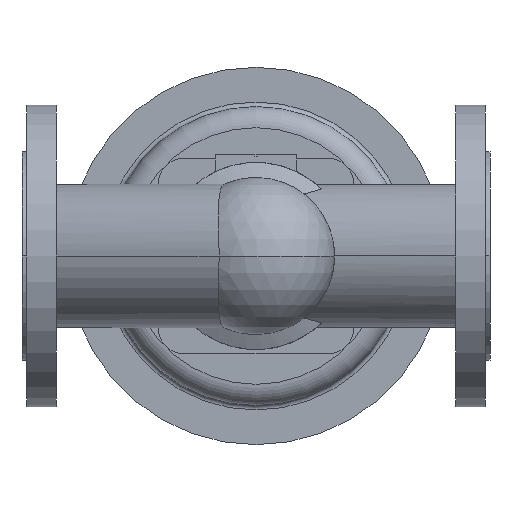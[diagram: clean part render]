
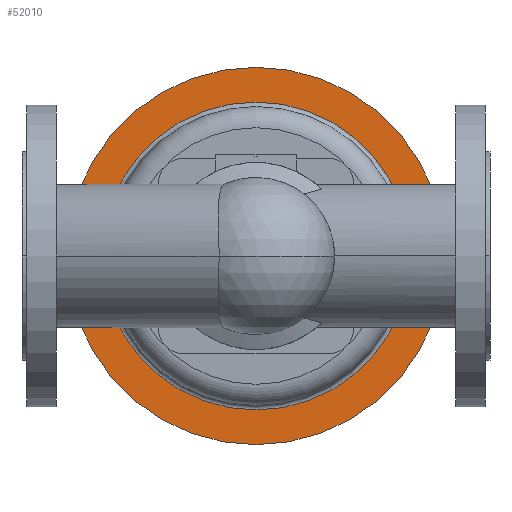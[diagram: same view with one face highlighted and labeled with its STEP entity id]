
A CAD part, front view. The second image highlights one B-rep face of the part: STEP entity #52010.
In plain terms, the highlighted planar face has unit normal (0, -1, 0).
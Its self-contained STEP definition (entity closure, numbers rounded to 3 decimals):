
#38210=CARTESIAN_POINT('',(280.,424.5,0.));
#38220=VERTEX_POINT('',#38210);
#38380=CARTESIAN_POINT('',(30.,424.5,0.));
#38390=VERTEX_POINT('',#38380);
#38420=CARTESIAN_POINT('',(155.,424.5,0.));
#38430=DIRECTION('',(0.,1.,0.));
#38440=DIRECTION('',(1.,0.,0.));
#38450=AXIS2_PLACEMENT_3D('',#38420,#38430,#38440);
#38460=CIRCLE('',#38450,125.);
#38470=EDGE_CURVE('',#38220,#38390,#38460,.T.);
#38640=CARTESIAN_POINT('',(257.,424.5,0.));
#38650=VERTEX_POINT('',#38640);
#38680=CARTESIAN_POINT('',(155.,424.5,0.));
#38690=DIRECTION('',(0.,1.,0.));
#38700=DIRECTION('',(1.,0.,0.));
#38710=AXIS2_PLACEMENT_3D('',#38680,#38690,#38700);
#38720=CIRCLE('',#38710,102.);
#38730=CARTESIAN_POINT('',(53.,424.5,0.));
#38740=VERTEX_POINT('',#38730);
#38750=EDGE_CURVE('',#38650,#38740,#38720,.T.);
#51820=CARTESIAN_POINT('',(268.5,424.5,0.));
#51830=DIRECTION('',(0.,-1.,0.));
#51840=DIRECTION('',(-1.,0.,0.));
#51850=AXIS2_PLACEMENT_3D('',#51820,#51830,#51840);
#51860=PLANE('',#51850);
#51870=EDGE_CURVE('',#38390,#38220,#38460,.T.);
#51880=ORIENTED_EDGE('',*,*,#51870,.F.);
#51890=ORIENTED_EDGE('',*,*,#38470,.F.);
#51900=EDGE_LOOP('',(#51890,#51880));
#51910=FACE_OUTER_BOUND('',#51900,.T.);
#51920=ORIENTED_EDGE('',*,*,#38750,.T.);
#51930=CARTESIAN_POINT('',(155.,424.5,102.));
#51940=VERTEX_POINT('',#51930);
#51950=EDGE_CURVE('',#51940,#38650,#38720,.T.);
#51960=ORIENTED_EDGE('',*,*,#51950,.T.);
#51970=EDGE_CURVE('',#38740,#51940,#38720,.T.);
#51980=ORIENTED_EDGE('',*,*,#51970,.T.);
#51990=EDGE_LOOP('',(#51980,#51960,#51920));
#52000=FACE_BOUND('',#51990,.T.);
#52010=ADVANCED_FACE('',(#51910,#52000),#51860,.T.);
